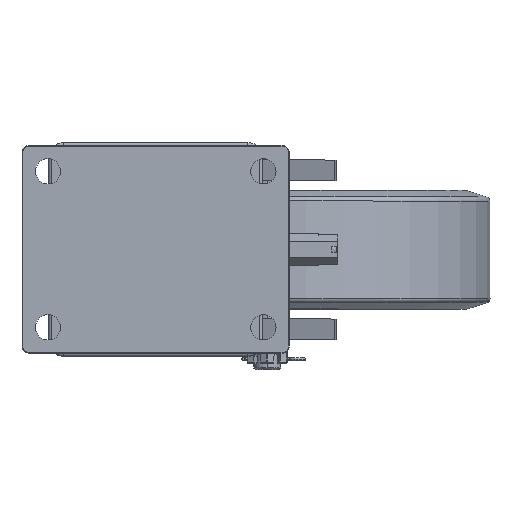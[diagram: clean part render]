
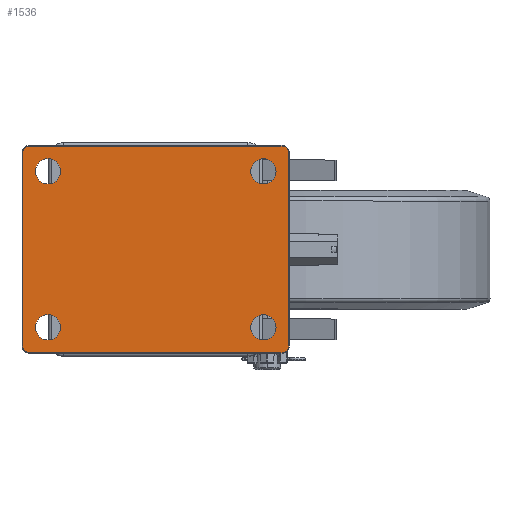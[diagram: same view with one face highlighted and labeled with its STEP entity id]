
A CAD part, top view. The second image highlights one B-rep face of the part: STEP entity #1536.
In plain terms, the highlighted planar face has unit normal (0, 0, 1).
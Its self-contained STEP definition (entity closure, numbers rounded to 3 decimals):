
#129=FACE_BOUND('',#3146,.T.);
#130=FACE_BOUND('',#3147,.T.);
#131=FACE_BOUND('',#3148,.T.);
#132=FACE_BOUND('',#3149,.T.);
#133=FACE_BOUND('',#3150,.T.);
#563=PLANE('',#14298);
#1536=ADVANCED_FACE('',(#129,#130,#131,#132,#133),#563,.T.);
#3146=EDGE_LOOP('',(#8753,#8754,#8755,#8756,#8757,#8758,#8759,#8760));
#3147=EDGE_LOOP('',(#8761,#8762));
#3148=EDGE_LOOP('',(#8763,#8764));
#3149=EDGE_LOOP('',(#8765,#8766));
#3150=EDGE_LOOP('',(#8767,#8768));
#4536=LINE('',#26813,#5326);
#4537=LINE('',#26815,#5327);
#4538=LINE('',#26820,#5328);
#4539=LINE('',#26824,#5329);
#5326=VECTOR('',#17182,1.);
#5327=VECTOR('',#17185,1.);
#5328=VECTOR('',#17188,1.);
#5329=VECTOR('',#17191,1.);
#8753=ORIENTED_EDGE('',*,*,#12378,.F.);
#8754=ORIENTED_EDGE('',*,*,#12379,.F.);
#8755=ORIENTED_EDGE('',*,*,#12380,.F.);
#8756=ORIENTED_EDGE('',*,*,#12381,.F.);
#8757=ORIENTED_EDGE('',*,*,#12382,.F.);
#8758=ORIENTED_EDGE('',*,*,#12383,.F.);
#8759=ORIENTED_EDGE('',*,*,#12377,.F.);
#8760=ORIENTED_EDGE('',*,*,#12384,.F.);
#8761=ORIENTED_EDGE('',*,*,#12385,.F.);
#8762=ORIENTED_EDGE('',*,*,#12386,.F.);
#8763=ORIENTED_EDGE('',*,*,#12387,.F.);
#8764=ORIENTED_EDGE('',*,*,#12388,.F.);
#8765=ORIENTED_EDGE('',*,*,#12389,.F.);
#8766=ORIENTED_EDGE('',*,*,#12390,.F.);
#8767=ORIENTED_EDGE('',*,*,#12391,.F.);
#8768=ORIENTED_EDGE('',*,*,#12392,.F.);
#10528=VERTEX_POINT('',#26810);
#10529=VERTEX_POINT('',#26812);
#10530=VERTEX_POINT('',#26816);
#10531=VERTEX_POINT('',#26817);
#10532=VERTEX_POINT('',#26819);
#10533=VERTEX_POINT('',#26821);
#10534=VERTEX_POINT('',#26823);
#10535=VERTEX_POINT('',#26825);
#10536=VERTEX_POINT('',#26829);
#10537=VERTEX_POINT('',#26830);
#10538=VERTEX_POINT('',#26833);
#10539=VERTEX_POINT('',#26834);
#10540=VERTEX_POINT('',#26837);
#10541=VERTEX_POINT('',#26838);
#10542=VERTEX_POINT('',#26841);
#10543=VERTEX_POINT('',#26842);
#12377=EDGE_CURVE('',#10529,#10528,#4536,.T.);
#12378=EDGE_CURVE('',#10530,#10531,#4537,.T.);
#12379=EDGE_CURVE('',#10532,#10530,#13149,.T.);
#12380=EDGE_CURVE('',#10533,#10532,#4538,.T.);
#12381=EDGE_CURVE('',#10534,#10533,#13150,.T.);
#12382=EDGE_CURVE('',#10535,#10534,#4539,.T.);
#12383=EDGE_CURVE('',#10528,#10535,#13151,.T.);
#12384=EDGE_CURVE('',#10531,#10529,#13152,.T.);
#12385=EDGE_CURVE('',#10536,#10537,#13153,.T.);
#12386=EDGE_CURVE('',#10537,#10536,#13154,.T.);
#12387=EDGE_CURVE('',#10538,#10539,#13155,.T.);
#12388=EDGE_CURVE('',#10539,#10538,#13156,.T.);
#12389=EDGE_CURVE('',#10540,#10541,#13157,.T.);
#12390=EDGE_CURVE('',#10541,#10540,#13158,.T.);
#12391=EDGE_CURVE('',#10542,#10543,#13159,.T.);
#12392=EDGE_CURVE('',#10543,#10542,#13160,.T.);
#13149=CIRCLE('',#14286,4.5);
#13150=CIRCLE('',#14287,4.5);
#13151=CIRCLE('',#14288,4.5);
#13152=CIRCLE('',#14289,4.5);
#13153=CIRCLE('',#14290,8.5);
#13154=CIRCLE('',#14291,8.5);
#13155=CIRCLE('',#14292,8.5);
#13156=CIRCLE('',#14293,8.5);
#13157=CIRCLE('',#14294,8.5);
#13158=CIRCLE('',#14295,8.5);
#13159=CIRCLE('',#14296,8.5);
#13160=CIRCLE('',#14297,8.5);
#14286=AXIS2_PLACEMENT_3D('',#26818,#17186,#17187);
#14287=AXIS2_PLACEMENT_3D('',#26822,#17189,#17190);
#14288=AXIS2_PLACEMENT_3D('',#26826,#17192,#17193);
#14289=AXIS2_PLACEMENT_3D('',#26827,#17194,#17195);
#14290=AXIS2_PLACEMENT_3D('',#26828,#17196,#17197);
#14291=AXIS2_PLACEMENT_3D('',#26831,#17198,#17199);
#14292=AXIS2_PLACEMENT_3D('',#26832,#17200,#17201);
#14293=AXIS2_PLACEMENT_3D('',#26835,#17202,#17203);
#14294=AXIS2_PLACEMENT_3D('',#26836,#17204,#17205);
#14295=AXIS2_PLACEMENT_3D('',#26839,#17206,#17207);
#14296=AXIS2_PLACEMENT_3D('',#26840,#17208,#17209);
#14297=AXIS2_PLACEMENT_3D('',#26843,#17210,#17211);
#14298=AXIS2_PLACEMENT_3D('',#26844,#17212,#17213);
#17182=DIRECTION('',(-1.,0.,0.));
#17185=DIRECTION('',(0.,-1.,0.));
#17186=DIRECTION('',(0.,0.,-1.));
#17187=DIRECTION('',(0.,1.,0.));
#17188=DIRECTION('',(1.,0.,0.));
#17189=DIRECTION('',(0.,0.,-1.));
#17190=DIRECTION('',(-1.,0.,0.));
#17191=DIRECTION('',(0.,1.,0.));
#17192=DIRECTION('',(0.,0.,-1.));
#17193=DIRECTION('',(0.,-1.,0.));
#17194=DIRECTION('',(0.,0.,-1.));
#17195=DIRECTION('',(1.,0.,0.));
#17196=DIRECTION('',(0.,0.,1.));
#17197=DIRECTION('',(-1.,0.,0.));
#17198=DIRECTION('',(0.,0.,1.));
#17199=DIRECTION('',(1.,0.,0.));
#17200=DIRECTION('',(0.,0.,1.));
#17201=DIRECTION('',(-1.,0.,0.));
#17202=DIRECTION('',(0.,0.,1.));
#17203=DIRECTION('',(1.,0.,0.));
#17204=DIRECTION('',(0.,0.,1.));
#17205=DIRECTION('',(-1.,0.,0.));
#17206=DIRECTION('',(0.,0.,1.));
#17207=DIRECTION('',(1.,0.,0.));
#17208=DIRECTION('',(0.,0.,1.));
#17209=DIRECTION('',(-1.,0.,0.));
#17210=DIRECTION('',(0.,0.,1.));
#17211=DIRECTION('',(1.,0.,0.));
#17212=DIRECTION('',(0.,0.,1.));
#17213=DIRECTION('',(-1.,0.,0.));
#26810=CARTESIAN_POINT('',(-85.,-69.5,0.));
#26812=CARTESIAN_POINT('',(85.,-69.5,0.));
#26813=CARTESIAN_POINT('',(85.,-69.5,0.));
#26815=CARTESIAN_POINT('',(89.5,65.,0.));
#26816=CARTESIAN_POINT('',(89.5,65.,0.));
#26817=CARTESIAN_POINT('',(89.5,-65.,0.));
#26818=CARTESIAN_POINT('',(85.,65.,0.));
#26819=CARTESIAN_POINT('',(85.,69.5,0.));
#26820=CARTESIAN_POINT('',(-85.,69.5,0.));
#26821=CARTESIAN_POINT('',(-85.,69.5,0.));
#26822=CARTESIAN_POINT('',(-85.,65.,0.));
#26823=CARTESIAN_POINT('',(-89.5,65.,0.));
#26824=CARTESIAN_POINT('',(-89.5,-65.,0.));
#26825=CARTESIAN_POINT('',(-89.5,-65.,0.));
#26826=CARTESIAN_POINT('',(-85.,-65.,0.));
#26827=CARTESIAN_POINT('',(85.,-65.,0.));
#26828=CARTESIAN_POINT('',(-72.5,52.5,0.));
#26829=CARTESIAN_POINT('',(-81.,52.5,0.));
#26830=CARTESIAN_POINT('',(-64.,52.5,0.));
#26831=CARTESIAN_POINT('',(-72.5,52.5,0.));
#26832=CARTESIAN_POINT('',(72.5,-52.5,0.));
#26833=CARTESIAN_POINT('',(64.,-52.5,0.));
#26834=CARTESIAN_POINT('',(81.,-52.5,0.));
#26835=CARTESIAN_POINT('',(72.5,-52.5,0.));
#26836=CARTESIAN_POINT('',(72.5,52.5,0.));
#26837=CARTESIAN_POINT('',(64.,52.5,0.));
#26838=CARTESIAN_POINT('',(81.,52.5,0.));
#26839=CARTESIAN_POINT('',(72.5,52.5,0.));
#26840=CARTESIAN_POINT('',(-72.5,-52.5,0.));
#26841=CARTESIAN_POINT('',(-81.,-52.5,0.));
#26842=CARTESIAN_POINT('',(-64.,-52.5,0.));
#26843=CARTESIAN_POINT('',(-72.5,-52.5,0.));
#26844=CARTESIAN_POINT('',(0.,0.,0.));
